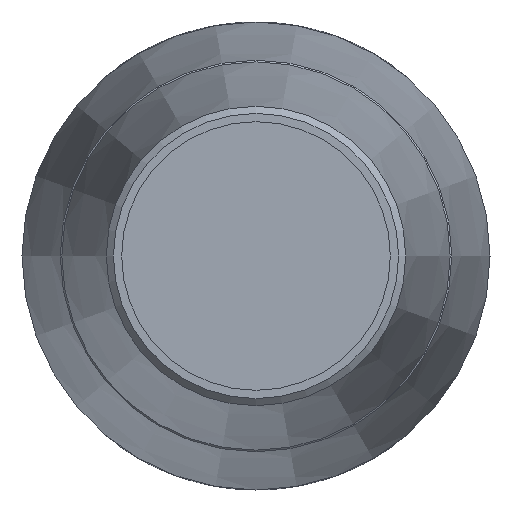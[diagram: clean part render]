
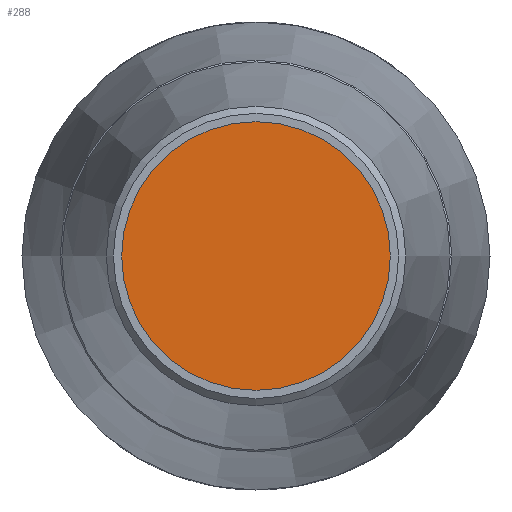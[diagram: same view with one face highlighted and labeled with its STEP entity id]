
A CAD part, left-side view. The second image highlights one B-rep face of the part: STEP entity #288.
In plain terms, the highlighted planar face has unit normal (-1, 0, 0).
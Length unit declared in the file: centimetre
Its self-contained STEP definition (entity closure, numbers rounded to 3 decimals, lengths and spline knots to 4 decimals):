
#42=PLANE('',#323);
#73=FACE_OUTER_BOUND('',#104,.T.);
#104=EDGE_LOOP('',(#210));
#132=CIRCLE('',#322,6.2);
#148=VERTEX_POINT('',#455);
#172=EDGE_CURVE('',#148,#148,#132,.T.);
#210=ORIENTED_EDGE('',*,*,#172,.T.);
#288=ADVANCED_FACE('',(#73),#42,.T.);
#322=AXIS2_PLACEMENT_3D('',#456,#383,#384);
#323=AXIS2_PLACEMENT_3D('',#457,#385,#386);
#383=DIRECTION('center_axis',(-1.,0.,0.));
#384=DIRECTION('ref_axis',(0.,0.,1.));
#385=DIRECTION('center_axis',(-1.,0.,0.));
#386=DIRECTION('ref_axis',(0.,0.,1.));
#455=CARTESIAN_POINT('',(-58.75,-6.2,0.));
#456=CARTESIAN_POINT('Origin',(-58.75,0.,0.));
#457=CARTESIAN_POINT('Origin',(-58.75,0.,0.));
